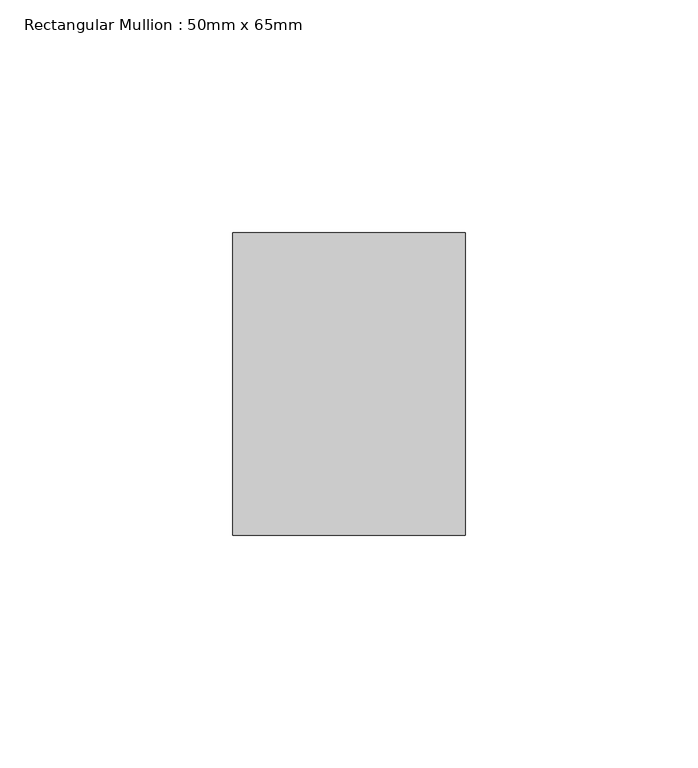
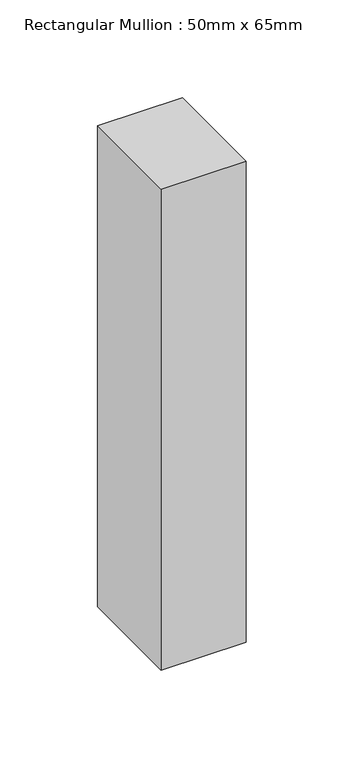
"""IFC4 building model written with IfcOpenShell, lengths in millimetres: member geometry, Rectangular Mullion : 50mm x 65mm."""

from ifc_helpers import new_model, si_unit, frame, origin, place, context, project, spatial, polyline, outline, extrude, source, transform, mapped, element, save


def rectangular_mullion_50mm_x_65mm_dbc77acd(model_context):
    return source(origin(), model_context, "Body", "SweptSolid", [
        extrude(outline(polyline([(0.0, 32.5), (0.0, -32.5), (-50.0, -32.5), (-50.0, 32.5), (0.0, 32.5)])), frame((0.0, 0.0, -300.0), z_axis=(0.0, 0.0, 1.0), x_axis=(1.0, 0.0, 0.0)), (0.0, 0.0, 1.0), 300.0),
    ])


if __name__ == "__main__":
    model = new_model("IFC4")
    model_context = context("Model", 3, world=origin())
    ifc_project = project(units=[si_unit("LENGTHUNIT", "METRE", prefix="MILLI")], contexts=[model_context])
    site = spatial("IfcSite", under=ifc_project)
    building = spatial("IfcBuilding", under=site)
    placement = place(None, origin())
    rectangular_mullion_50mm_x_65mm_shape = rectangular_mullion_50mm_x_65mm_dbc77acd(model_context)
    element("IfcMember", 1, ObjectType="Rectangular Mullion : 50mm x 65mm", at=placement, inside=building, context=model_context, shape_type="MappedRepresentation", body=[
        mapped(rectangular_mullion_50mm_x_65mm_shape, transform((0.0, 0.0, 0.0), x_axis=(1.0, 0.0, 0.0), y_axis=(0.0, 1.0, 0.0), z_axis=(0.0, 0.0, 1.0))),
    ])
    save(model, "model.ifc")
